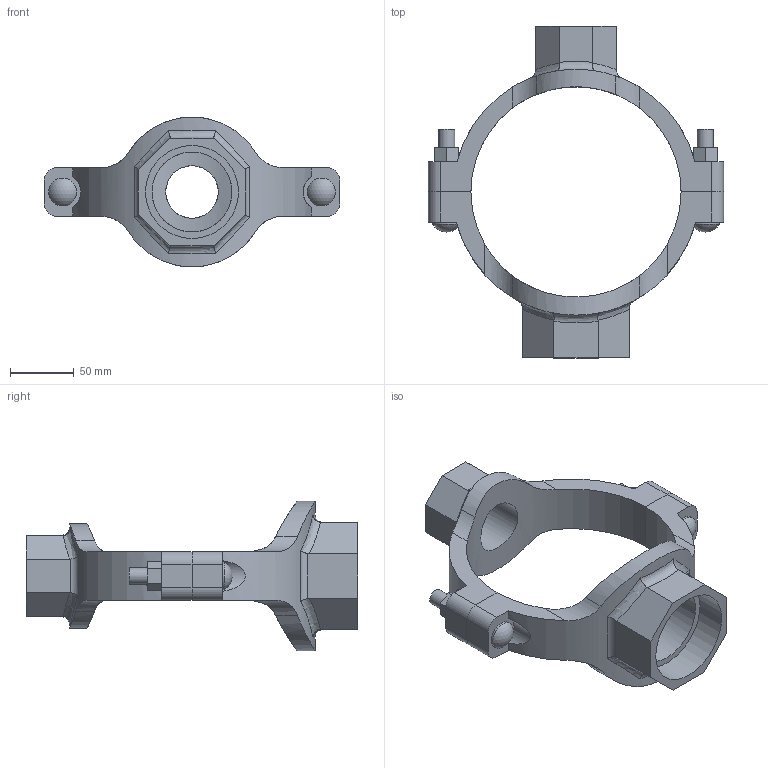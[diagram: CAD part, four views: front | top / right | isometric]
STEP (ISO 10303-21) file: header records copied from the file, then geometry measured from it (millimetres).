
FILE_DESCRIPTION(/* description */ ('VIC MECH-T BRANCH OUTLET CROSS STYLE 920N (THD)','CAx-IF Rec.Pracs.---Representation and Presentation of Product Manufacturing Information (PMI)---4.0---2014-10-13'),/* implementation_level */ '2;1');
FILE_NAME(/* name */ 'C:\Users\Vjadhav\AppData\Roaming\Autodesk\ApplicationPlugins\Back Up\Victaulic_IPS_Mechanical-Cross Outlet_Style 920N (FPT)\Victaulic_IPS_Mechanical-Cross Outlet_06.0 (165.1)x01.5x02.5 (150x40x65).stp',/* time_stamp */ '2020-08-06T18:59:58+05:00',/* author */ ('Vjadhav'),/* organization */ ('Victaulic'),/* preprocessor_version */ 'ST-DEVELOPER v17.2',/* originating_system */ 'Autodesk Inventor 2019',/* authorisation */ '');
FILE_SCHEMA (('AP242_MANAGED_MODEL_BASED_3D_ENGINEERING_MIM_LF { 1 0 10303 442 1 1 4 }'));
Length unit declared in the file: inch
Products named in the file (3): 920NT-06.0 (165.1)x01.5x02.5; 920NT-06.0 (165.1)x01.5; 920NT-06.0 (165.1)x02.5
Assembly tree (2 placements, depth 2):
  920NT-06.0 (165.1)x01.5x02.5
    920NT-06.0 (165.1)x01.5
    920NT-06.0 (165.1)x02.5
Bounding box: 231.9 x 260.6 x 117.6 mm (x, y, z)
Volume: 583027.4 mm3; surface area: 128763.6 mm2
Topology: 2 solids, 2 shells, 132 faces, 350 edges, 236 vertices
Faces by surface type: plane 68, cylinder 50, bspline 8, torus 4, sphere 2
Full cylindrical faces by diameter (mm): 12.7 x4, 21.982 x2, 41.275 x1, 48.26 x1, 62.738 x1, 73.025 x1
Entity records: 5264 total; most frequent: CARTESIAN_POINT 1751, ORIENTED_EDGE 700, DIRECTION 648, EDGE_CURVE 350, VERTEX_POINT 236, AXIS2_PLACEMENT_3D 231, LINE 186, VECTOR 186
